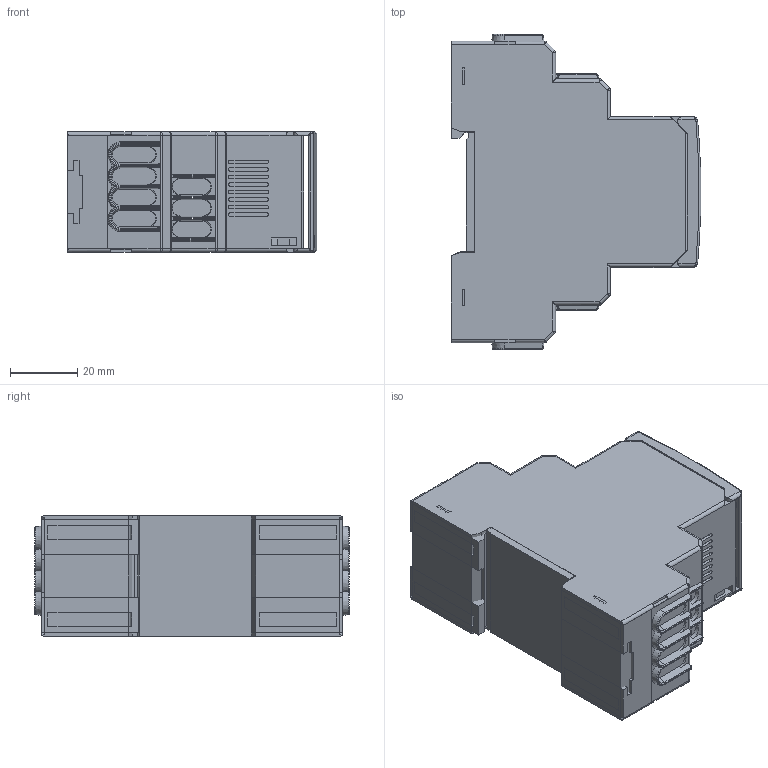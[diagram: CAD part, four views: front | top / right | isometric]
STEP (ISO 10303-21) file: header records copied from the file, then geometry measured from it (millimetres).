
FILE_DESCRIPTION(/* description */ (''),/* implementation_level */ '2;1');
FILE_NAME(/* name */ 'X:\Digidirect\CAD\Importierte Komponenten\XM420_Z152024.01\XM420_Z152024.01.stp',/* time_stamp */ '2013-10-10T11:10:31+02:00',/* author */ ('Maik Jost'),/* organization */ (''),/* preprocessor_version */ 'ST-DEVELOPER v15.2',/* originating_system */ 'Autodesk Inventor 2014',/* authorisation */ '');
FILE_SCHEMA (('CONFIG_CONTROL_DESIGN'));
Length unit declared in the file: millimetre
Products named in the file (2): XM420_Z152024.01_Substitute_1; XM420_Z152024.01
Bounding box: 74.39 x 94 x 36 mm (x, y, z)
Surface area: 32170.1 mm2 (no closed solid volume)
Topology: 0 solids, 4 shells, 597 faces, 1933 edges, 1284 vertices
Faces by surface type: plane 286, cylinder 178, bspline 55, cone 36, torus 26, sphere 16
Entity records: 23283 total; most frequent: CARTESIAN_POINT 6650, DIRECTION 3421, ORIENTED_EDGE 3322, EDGE_CURVE 1921, VERTEX_POINT 1284, LINE 1221, VECTOR 1221, AXIS2_PLACEMENT_3D 1100
